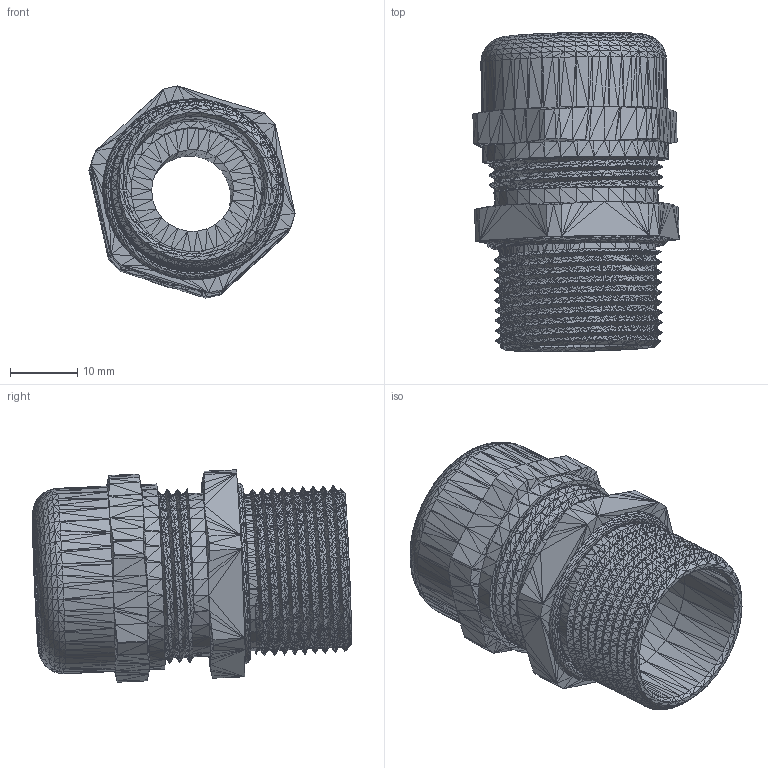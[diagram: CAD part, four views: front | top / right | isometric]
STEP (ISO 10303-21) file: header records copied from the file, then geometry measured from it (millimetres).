
FILE_DESCRIPTION((''),'2;1');
FILE_NAME('051257', '2026-05-14T12:57:26', (''), (''), 'ImageToStl.com STEP Converter','', '');
FILE_SCHEMA(('AUTOMOTIVE_DESIGN_CC2'));
Length unit declared in the file: metre
Products named in the file (1): product0
Bounding box: 30.64 x 47.43 x 31.56 mm (x, y, z)
Surface area: 18406.2 mm2 (no closed solid volume)
Topology: 0 solids, 28012 shells, 28012 faces, 84036 edges, 14006 vertices
Faces by surface type: plane 28012
Entity records: 644304 total; most frequent: DIRECTION 140062, ORIENTED_EDGE 84036, EDGE_CURVE 84036, LINE 84036, VECTOR 84036, AXIS2_PLACEMENT_3D 28013, FACE_SURFACE 28012, PLANE 28012
